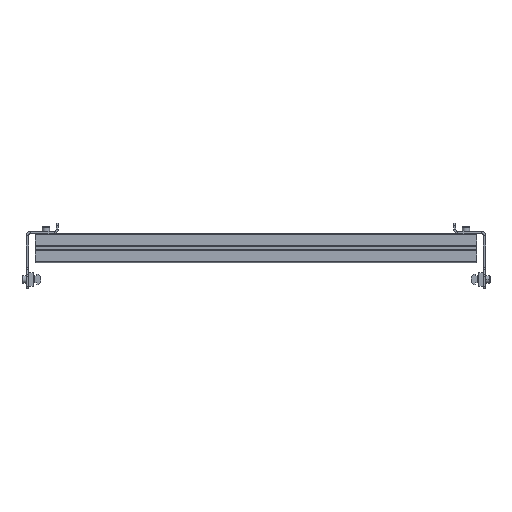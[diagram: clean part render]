
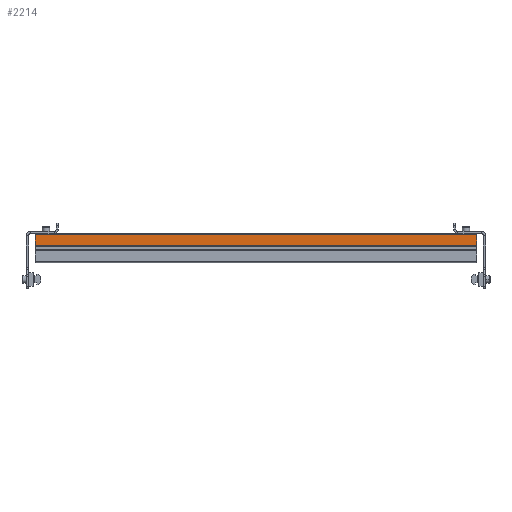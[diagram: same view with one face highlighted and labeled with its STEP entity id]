
A CAD part, top view. The second image highlights one B-rep face of the part: STEP entity #2214.
In plain terms, the highlighted planar face has unit normal (0, 0, 1) as drawn and (0, 1, 0) by its records, which use the part's own axes.
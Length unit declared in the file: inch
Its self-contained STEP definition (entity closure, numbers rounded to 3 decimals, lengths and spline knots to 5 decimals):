
#191 = EDGE_LOOP ( 'NONE', ( #5114, #6616, #4003, #1992 ) ) ;
#509 = VERTEX_POINT ( 'NONE', #4654 ) ;
#599 = LINE ( 'NONE', #7783, #2158 ) ;
#792 = VERTEX_POINT ( 'NONE', #5495 ) ;
#930 = CARTESIAN_POINT ( 'NONE',  ( 0.7875, 0.441, -11.98 ) ) ;
#1494 = DIRECTION ( 'NONE',  ( 0., 0., 1. ) ) ;
#1544 = CARTESIAN_POINT ( 'NONE',  ( -0.725, 0.441, 75. ) ) ;
#1567 = LINE ( 'NONE', #930, #3128 ) ;
#1807 = DIRECTION ( 'NONE',  ( 0., 0., -1. ) ) ;
#1992 = ORIENTED_EDGE ( 'NONE', *, *, #5789, .F. ) ;
#2122 = LINE ( 'NONE', #1544, #6394 ) ;
#2158 = VECTOR ( 'NONE', #4101, 39.37008 ) ;
#2214 = ADVANCED_FACE ( 'NONE', ( #2299 ), #5582, .F. ) ;
#2299 = FACE_OUTER_BOUND ( 'NONE', #191, .T. ) ;
#2385 = CARTESIAN_POINT ( 'NONE',  ( -0.7875, 0.441, 75. ) ) ;
#2427 = DIRECTION ( 'NONE',  ( -1., 0., 0. ) ) ;
#2634 = EDGE_CURVE ( 'NONE', #509, #2669, #2122, .T. ) ;
#2669 = VERTEX_POINT ( 'NONE', #6330 ) ;
#3128 = VECTOR ( 'NONE', #4790, 39.37008 ) ;
#3149 = CARTESIAN_POINT ( 'NONE',  ( 0.7875, 0.441, 11.98 ) ) ;
#3220 = EDGE_CURVE ( 'NONE', #792, #4413, #599, .T. ) ;
#4003 = ORIENTED_EDGE ( 'NONE', *, *, #2634, .T. ) ;
#4101 = DIRECTION ( 'NONE',  ( 0., 0., 1. ) ) ;
#4413 = VERTEX_POINT ( 'NONE', #5585 ) ;
#4654 = CARTESIAN_POINT ( 'NONE',  ( -0.725, 0.441, -11.98 ) ) ;
#4790 = DIRECTION ( 'NONE',  ( 1., 0., 0. ) ) ;
#5047 = AXIS2_PLACEMENT_3D ( 'NONE', #2385, #8156, #1807 ) ;
#5080 = LINE ( 'NONE', #3149, #7872 ) ;
#5114 = ORIENTED_EDGE ( 'NONE', *, *, #3220, .F. ) ;
#5383 = EDGE_CURVE ( 'NONE', #509, #792, #1567, .T. ) ;
#5495 = CARTESIAN_POINT ( 'NONE',  ( -0.14758, 0.441, -11.98 ) ) ;
#5582 = PLANE ( 'NONE',  #5047 ) ;
#5585 = CARTESIAN_POINT ( 'NONE',  ( -0.14758, 0.441, 11.98 ) ) ;
#5789 = EDGE_CURVE ( 'NONE', #4413, #2669, #5080, .T. ) ;
#6330 = CARTESIAN_POINT ( 'NONE',  ( -0.725, 0.441, 11.98 ) ) ;
#6394 = VECTOR ( 'NONE', #1494, 39.37008 ) ;
#6616 = ORIENTED_EDGE ( 'NONE', *, *, #5383, .F. ) ;
#7783 = CARTESIAN_POINT ( 'NONE',  ( -0.14758, 0.441, -75. ) ) ;
#7872 = VECTOR ( 'NONE', #2427, 39.37008 ) ;
#8156 = DIRECTION ( 'NONE',  ( 0., -1., 0. ) ) ;
